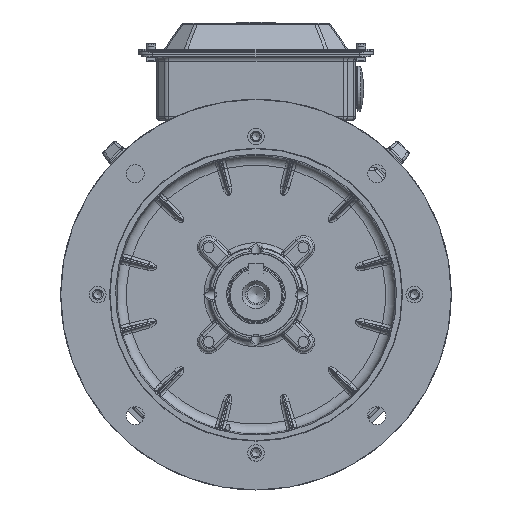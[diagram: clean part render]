
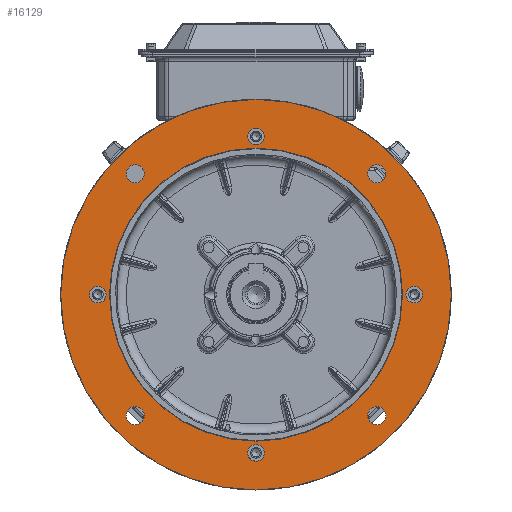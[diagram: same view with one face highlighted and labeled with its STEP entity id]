
A CAD part, front view. The second image highlights one B-rep face of the part: STEP entity #16129.
In plain terms, the highlighted planar face has unit normal (0, -1, 0).
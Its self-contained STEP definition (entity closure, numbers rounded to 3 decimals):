
#14967=PLANE('',#61666);
#16129=ADVANCED_FACE('',(#21048,#21049,#21050,#21051,#21052,#21053,#21054,
#21055,#21056,#21057),#14967,.T.);
#21048=FACE_BOUND('',#22084,.T.);
#21049=FACE_BOUND('',#22085,.T.);
#21050=FACE_BOUND('',#22086,.T.);
#21051=FACE_BOUND('',#22087,.T.);
#21052=FACE_BOUND('',#22088,.T.);
#21053=FACE_BOUND('',#22089,.T.);
#21054=FACE_BOUND('',#22090,.T.);
#21055=FACE_BOUND('',#22091,.T.);
#21056=FACE_BOUND('',#22092,.T.);
#21057=FACE_BOUND('',#22093,.T.);
#22084=EDGE_LOOP('',(#27849));
#22085=EDGE_LOOP('',(#27850));
#22086=EDGE_LOOP('',(#27851));
#22087=EDGE_LOOP('',(#27852));
#22088=EDGE_LOOP('',(#27853));
#22089=EDGE_LOOP('',(#27854));
#22090=EDGE_LOOP('',(#27855));
#22091=EDGE_LOOP('',(#27856));
#22092=EDGE_LOOP('',(#27857));
#22093=EDGE_LOOP('',(#27858));
#27849=ORIENTED_EDGE('',*,*,#49860,.F.);
#27850=ORIENTED_EDGE('',*,*,#49861,.F.);
#27851=ORIENTED_EDGE('',*,*,#49862,.F.);
#27852=ORIENTED_EDGE('',*,*,#49863,.F.);
#27853=ORIENTED_EDGE('',*,*,#49864,.T.);
#27854=ORIENTED_EDGE('',*,*,#49865,.T.);
#27855=ORIENTED_EDGE('',*,*,#49866,.T.);
#27856=ORIENTED_EDGE('',*,*,#49867,.T.);
#27857=ORIENTED_EDGE('',*,*,#49868,.F.);
#27858=ORIENTED_EDGE('',*,*,#49800,.T.);
#44107=VERTEX_POINT('',#88915);
#44159=VERTEX_POINT('',#89258);
#44160=VERTEX_POINT('',#89260);
#44161=VERTEX_POINT('',#89262);
#44162=VERTEX_POINT('',#89264);
#44163=VERTEX_POINT('',#89266);
#44164=VERTEX_POINT('',#89268);
#44165=VERTEX_POINT('',#89270);
#44166=VERTEX_POINT('',#89272);
#44167=VERTEX_POINT('',#89274);
#49800=EDGE_CURVE('',#44107,#44107,#58069,.T.);
#49860=EDGE_CURVE('',#44159,#44159,#58085,.T.);
#49861=EDGE_CURVE('',#44160,#44160,#58086,.T.);
#49862=EDGE_CURVE('',#44161,#44161,#58087,.T.);
#49863=EDGE_CURVE('',#44162,#44162,#58088,.T.);
#49864=EDGE_CURVE('',#44163,#44163,#58089,.T.);
#49865=EDGE_CURVE('',#44164,#44164,#58090,.T.);
#49866=EDGE_CURVE('',#44165,#44165,#58091,.T.);
#49867=EDGE_CURVE('',#44166,#44166,#58092,.T.);
#49868=EDGE_CURVE('',#44167,#44167,#58093,.T.);
#58069=CIRCLE('',#61630,200.);
#58085=CIRCLE('',#61657,9.25);
#58086=CIRCLE('',#61658,9.25);
#58087=CIRCLE('',#61659,9.25);
#58088=CIRCLE('',#61660,9.25);
#58089=CIRCLE('',#61661,8.5);
#58090=CIRCLE('',#61662,8.5);
#58091=CIRCLE('',#61663,8.5);
#58092=CIRCLE('',#61664,8.5);
#58093=CIRCLE('',#61665,150.);
#61630=AXIS2_PLACEMENT_3D('',#88914,#69160,#69161);
#61657=AXIS2_PLACEMENT_3D('',#89257,#69230,#69231);
#61658=AXIS2_PLACEMENT_3D('',#89259,#69232,#69233);
#61659=AXIS2_PLACEMENT_3D('',#89261,#69234,#69235);
#61660=AXIS2_PLACEMENT_3D('',#89263,#69236,#69237);
#61661=AXIS2_PLACEMENT_3D('',#89265,#69238,#69239);
#61662=AXIS2_PLACEMENT_3D('',#89267,#69240,#69241);
#61663=AXIS2_PLACEMENT_3D('',#89269,#69242,#69243);
#61664=AXIS2_PLACEMENT_3D('',#89271,#69244,#69245);
#61665=AXIS2_PLACEMENT_3D('',#89273,#69246,#69247);
#61666=AXIS2_PLACEMENT_3D('',#89275,#69248,#69249);
#69160=DIRECTION('',(0.,-1.,0.));
#69161=DIRECTION('',(0.,0.,1.));
#69230=DIRECTION('',(0.,-1.,0.));
#69231=DIRECTION('',(0.,0.,-1.));
#69232=DIRECTION('',(0.,-1.,0.));
#69233=DIRECTION('',(0.,0.,-1.));
#69234=DIRECTION('',(0.,-1.,0.));
#69235=DIRECTION('',(0.,0.,-1.));
#69236=DIRECTION('',(0.,-1.,0.));
#69237=DIRECTION('',(0.,0.,-1.));
#69238=DIRECTION('',(0.,1.,0.));
#69239=DIRECTION('',(0.,0.,-1.));
#69240=DIRECTION('',(0.,1.,0.));
#69241=DIRECTION('',(0.,0.,-1.));
#69242=DIRECTION('',(0.,1.,0.));
#69243=DIRECTION('',(0.,0.,-1.));
#69244=DIRECTION('',(0.,1.,0.));
#69245=DIRECTION('',(0.,0.,-1.));
#69246=DIRECTION('',(0.,-1.,0.));
#69247=DIRECTION('',(0.,0.,-1.));
#69248=DIRECTION('',(0.,-1.,0.));
#69249=DIRECTION('',(0.,0.,-1.));
#88914=CARTESIAN_POINT('',(0.,0.,
0.));
#88915=CARTESIAN_POINT('',(0.,0.,
200.));
#89257=CARTESIAN_POINT('',(-123.744,0.,123.744));
#89258=CARTESIAN_POINT('',(-123.744,0.,114.494));
#89259=CARTESIAN_POINT('',(-123.744,0.,-123.744));
#89260=CARTESIAN_POINT('',(-123.744,0.,-132.994));
#89261=CARTESIAN_POINT('',(123.744,0.,123.744));
#89262=CARTESIAN_POINT('',(123.744,0.,114.494));
#89263=CARTESIAN_POINT('',(123.744,0.,-123.744));
#89264=CARTESIAN_POINT('',(123.744,0.,-132.994));
#89265=CARTESIAN_POINT('',(-162.,0.,0.));
#89266=CARTESIAN_POINT('',(-162.,0.,-8.5));
#89267=CARTESIAN_POINT('',(0.,0.,
-162.));
#89268=CARTESIAN_POINT('',(0.,0.,
-170.5));
#89269=CARTESIAN_POINT('',(0.,0.,
162.));
#89270=CARTESIAN_POINT('',(0.,0.,
153.5));
#89271=CARTESIAN_POINT('',(162.,0.,0.));
#89272=CARTESIAN_POINT('',(162.,0.,-8.5));
#89273=CARTESIAN_POINT('',(0.,0.,
0.));
#89274=CARTESIAN_POINT('',(0.,0.,
-150.));
#89275=CARTESIAN_POINT('',(0.,0.,
-204.273));
